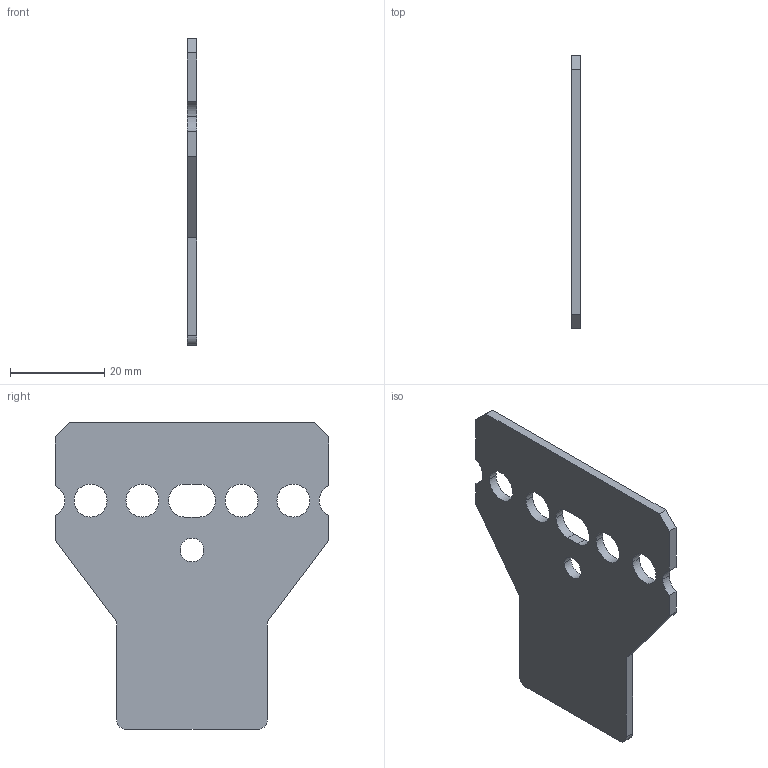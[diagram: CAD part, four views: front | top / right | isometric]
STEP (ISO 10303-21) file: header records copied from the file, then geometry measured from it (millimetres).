
FILE_DESCRIPTION (( 'STEP AP214' ), '1' );
FILE_NAME ('NOVA-Pro_Kunststoffadapter_2mm_links.step', '2010-09-29T09:37:26', ( 'grass' ), ( '' ), 'SwSTEP 2.0', 'SolidWorks 2010', '' );
FILE_SCHEMA (( 'AUTOMOTIVE_DESIGN' ));
Length unit declared in the file: millimetre
Products named in the file (1): NOVA-Pro_Kunststoffadapter_2mm_links
Bounding box: 2 x 58 x 65 mm (x, y, z)
Volume: 5384.7 mm3; surface area: 6101.2 mm2
Topology: 1 solids, 1 shells, 34 faces, 96 edges, 64 vertices
Faces by surface type: cylinder 18, plane 16
Entity records: 1174 total; most frequent: DIRECTION 202, CARTESIAN_POINT 195, ORIENTED_EDGE 192, EDGE_CURVE 96, AXIS2_PLACEMENT_3D 71, VERTEX_POINT 64, LINE 60, VECTOR 60
